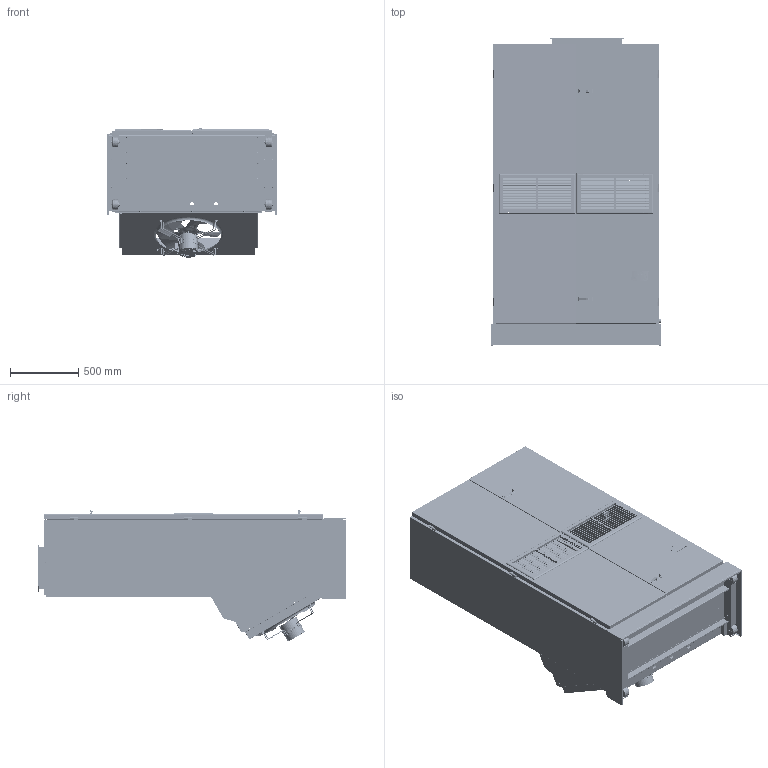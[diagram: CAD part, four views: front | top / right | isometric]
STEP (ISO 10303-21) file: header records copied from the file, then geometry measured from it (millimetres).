
FILE_DESCRIPTION (( 'STEP AP214' ), '1' );
FILE_NAME ('Q42-48H4.STEP', '2020-11-10T14:38:42', ( '' ), ( '' ), 'SwSTEP 2.0', 'SolidWorks 2020', '' );
FILE_SCHEMA (( 'AUTOMOTIVE_DESIGN' ));
Length unit declared in the file: inch
Products named in the file (95): 1012-033, ; 7051- frame_22.125top and bottom; 509-438; 112-831; 501-1088; 130-173; 1171-049g; 1012-224; 7051- middle support; 1171-049e; 124-102; 124-103; 553-735; 6094-019; 1171-049j; 100-1088; 124-098; 1012-048; 8200-001d; 1171-049b; 1171-035; 142-054; 1913-013-2213; 152-734; 8200-001, outdoor motor mount; 7051- louver slide; 1012-051, bolt_92620A540; 921-0085; 8200-001b; 8611-047; 104-1509; 8611-135; 1012-129; 8408-045; 8106-016; 8200-001e; 1171-049, locking door latch_Latch Closed; 6094-018; 125Y098; 112-861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
Assembly tree (326 placements, depth 4):
  Q42-48H4
    921-0085
      527-595
        126-595
        1012-086  x4
      1171-035  x4
      140-510  x2
      140-509  x2
      1012-129  x4
      134-403  x2
      5030-010-3600
      1921-052-4200
      1012-086  x24
      1012-224  x3
      1913-006-0408  x2
    501-1088
      100-1088
      5400-005, male hinge  x3
      1171-070  x9
      1012-048  x6
      1012-086  x14
    553-734
      152-734
      5400-005 female hinge  x3
      112-831
      1171-049, locking door latch_Latch Open
        1171-049a
        1171-049b
        1171-049c
        1171-049d
        1171-049e
        1171-049f
        1171-049g
        1171-049h
        1171-049i
        1171-049j
      1171-049, locking door latch_Latch Closed
        1171-049a
        1171-049b
        1171-049c
        1171-049d
        1171-049e
        1171-049f
        1171-049g
        1171-049h
        1171-049i
        1171-049j
      112-861  x2
      1012-110  x14
      1012-048  x4
    501-1095
      5400-005, male hinge  x3
      100-1095
      1171-070  x9
      1012-048  x6
    553-735
      152-735
      5400-005 female hinge  x3
      112-861  x2
      1012-110  x14
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Bounding box: 1246.49 x 2252.42 x 968.84 mm (x, y, z)
Volume: 16632898.8 mm3; surface area: 23962982.1 mm2
Topology: 320 solids, 320 shells, 13360 faces, 32613 edges, 20233 vertices
Faces by surface type: plane 5845, cylinder 3468, cone 2883, bspline 661, torus 455, sphere 48
Entity records: 224573 total; most frequent: CARTESIAN_POINT 53462, DIRECTION 34284, ORIENTED_EDGE 32508, EDGE_CURVE 16254, AXIS2_PLACEMENT_3D 12845, VERTEX_POINT 10067, VECTOR 8594, LINE 8594
